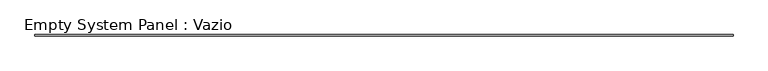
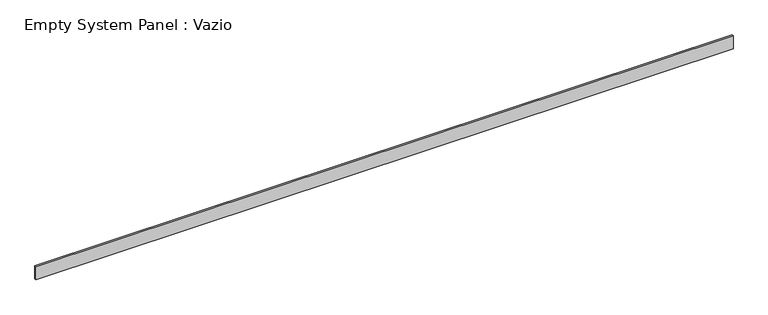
"""IFC4 building model written with IfcOpenShell, lengths in millimetres: plate geometry, Empty System Panel : Vazio."""

from ifc_helpers import new_model, si_unit, origin, origin_with_axes, place, context, project, spatial, polyline, outline, extrude, source, transform, mapped, element, save


def empty_system_panel_vazio_b4dcf635(model_context):
    return source(origin(), model_context, "Body", "SweptSolid", [
        extrude(outline(polyline([(23460.2135497, 50.0), (-23460.2135497, 50.0), (-23460.2135497, 150.0), (23460.2135497, 150.0), (23460.2135497, 50.0)])), origin_with_axes(), (0.0, 0.0, 1.0), 920.5804586),
    ])


if __name__ == "__main__":
    model = new_model("IFC4")
    model_context = context("Model", 3, world=origin())
    ifc_project = project(units=[si_unit("LENGTHUNIT", "METRE", prefix="MILLI")], contexts=[model_context])
    site = spatial("IfcSite", under=ifc_project)
    building = spatial("IfcBuilding", under=site)
    placement = place(None, origin())
    empty_system_panel_vazio_shape = empty_system_panel_vazio_b4dcf635(model_context)
    element("IfcPlate", 1, ObjectType="Empty System Panel : Vazio", at=placement, inside=building, context=model_context, shape_type="MappedRepresentation", body=[
        mapped(empty_system_panel_vazio_shape, transform((0.0, 0.0, 0.0), x_axis=(1.0, 0.0, 0.0), y_axis=(0.0, 1.0, 0.0), z_axis=(0.0, 0.0, 1.0))),
    ])
    save(model, "model.ifc")
